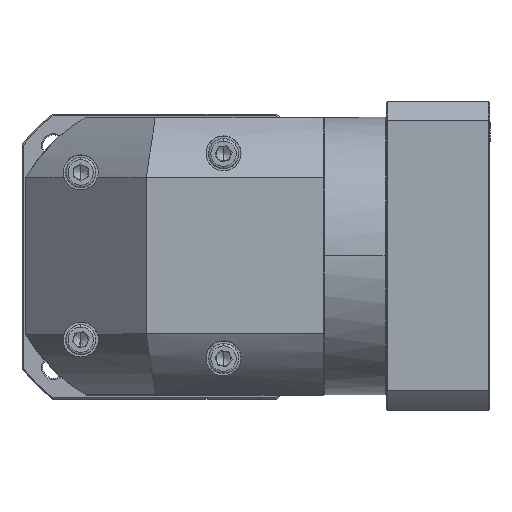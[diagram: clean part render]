
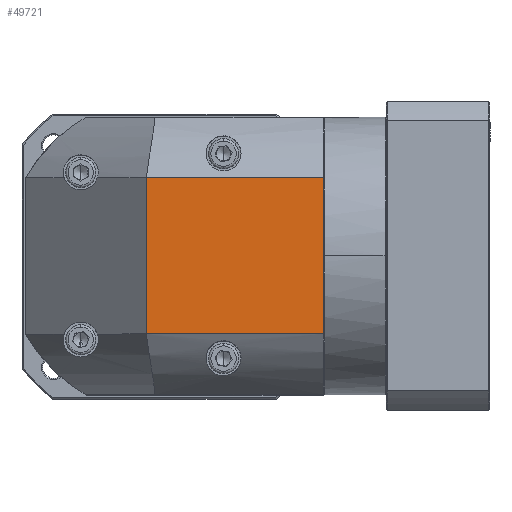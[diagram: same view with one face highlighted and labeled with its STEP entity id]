
A CAD part, top view. The second image highlights one B-rep face of the part: STEP entity #49721.
In plain terms, the highlighted planar face has unit normal (0, 0, 1).
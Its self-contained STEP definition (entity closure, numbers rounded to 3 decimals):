
#440 = VERTEX_POINT ( 'NONE', #125179 ) ;
#7949 = DIRECTION ( 'NONE',  ( 0., -1., 0. ) ) ;
#8036 = VERTEX_POINT ( 'NONE', #71838 ) ;
#10928 = VERTEX_POINT ( 'NONE', #18640 ) ;
#11268 = ORIENTED_EDGE ( 'NONE', *, *, #33173, .F. ) ;
#14258 = CARTESIAN_POINT ( 'NONE',  ( 43.053, 142.021, 85.747 ) ) ;
#14726 = LINE ( 'NONE', #65102, #45607 ) ;
#15766 = LINE ( 'NONE', #14258, #95124 ) ;
#18640 = CARTESIAN_POINT ( 'NONE',  ( 116.453, 116.921, 85.747 ) ) ;
#23766 = DIRECTION ( 'NONE',  ( -1., 0., 0. ) ) ;
#24304 = CARTESIAN_POINT ( 'NONE',  ( -6.947, 116.921, 85.747 ) ) ;
#25670 = DIRECTION ( 'NONE',  ( 1., 0., 0. ) ) ;
#25684 = ORIENTED_EDGE ( 'NONE', *, *, #104530, .F. ) ;
#33173 = EDGE_CURVE ( 'NONE', #8036, #111207, #15766, .T. ) ;
#41486 = VECTOR ( 'NONE', #25670, 1000. ) ;
#45607 = VECTOR ( 'NONE', #23766, 1000. ) ;
#47772 = EDGE_LOOP ( 'NONE', ( #54991, #11268, #25684, #77109 ) ) ;
#49721 = ADVANCED_FACE ( 'NONE', ( #61212 ), #121201, .F. ) ;
#52798 = EDGE_CURVE ( 'NONE', #10928, #440, #86290, .T. ) ;
#54641 = DIRECTION ( 'NONE',  ( 0., 1., 0. ) ) ;
#54991 = ORIENTED_EDGE ( 'NONE', *, *, #98011, .F. ) ;
#58817 = VECTOR ( 'NONE', #105540, 1000. ) ;
#61212 = FACE_OUTER_BOUND ( 'NONE', #47772, .T. ) ;
#65102 = CARTESIAN_POINT ( 'NONE',  ( -6.947, 52.121, 85.747 ) ) ;
#71838 = CARTESIAN_POINT ( 'NONE',  ( 43.053, 52.121, 85.747 ) ) ;
#77109 = ORIENTED_EDGE ( 'NONE', *, *, #52798, .F. ) ;
#83495 = LINE ( 'NONE', #24304, #41486 ) ;
#86290 = LINE ( 'NONE', #117766, #58817 ) ;
#95124 = VECTOR ( 'NONE', #54641, 1000. ) ;
#98011 = EDGE_CURVE ( 'NONE', #111207, #10928, #83495, .T. ) ;
#104530 = EDGE_CURVE ( 'NONE', #440, #8036, #14726, .T. ) ;
#105540 = DIRECTION ( 'NONE',  ( 0., -1., 0. ) ) ;
#111207 = VERTEX_POINT ( 'NONE', #111450 ) ;
#111450 = CARTESIAN_POINT ( 'NONE',  ( 43.053, 116.921, 85.747 ) ) ;
#112952 = CARTESIAN_POINT ( 'NONE',  ( 50.553, 84.521, 85.747 ) ) ;
#117766 = CARTESIAN_POINT ( 'NONE',  ( 116.453, 142.021, 85.747 ) ) ;
#121201 = PLANE ( 'NONE',  #126064 ) ;
#123430 = DIRECTION ( 'NONE',  ( 0., 0., -1. ) ) ;
#125179 = CARTESIAN_POINT ( 'NONE',  ( 116.453, 52.121, 85.747 ) ) ;
#126064 = AXIS2_PLACEMENT_3D ( 'NONE', #112952, #123430, #7949 ) ;
